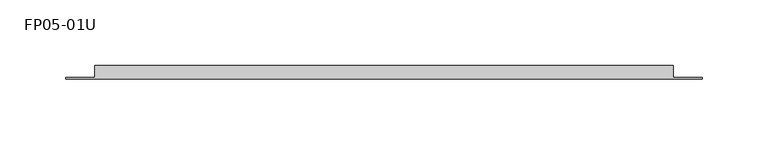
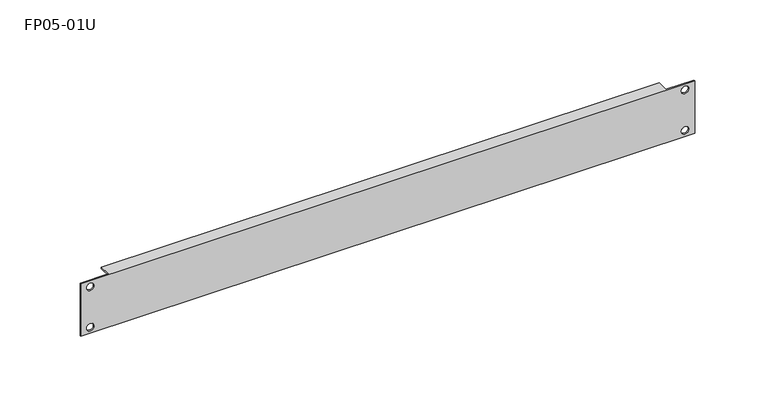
"""IFC4 building model written with IfcOpenShell, lengths in millimetres: proxy geometry, Фальш-панель : FP05-01U."""

from ifc_helpers import new_model, si_unit, frame, origin, place, context, project, spatial, polyline, circle_curve, source, transform, mapped, element, save
from ifc_brep_helpers import plane_surface, revolved_surface, advanced_brep


def fp05_01u_f00bcd1a(model_context):
    return source(origin(), model_context, "Body", "AdvancedBrep", [
        advanced_brep(
        [(-241.25, 0.0, 43.6), (-241.25, -1.0, 43.6), (241.25, -1.0, 43.6), (241.25, 0.0, 43.6), (219.25, 0.0, 43.6), (219.25, 9.0, 43.6), (-219.25, 9.0, 43.6), (-219.25, 0.0, 43.6), (241.25, 0.0, 0.0), (241.25, -1.0, 0.0), (-241.25, -1.0, 0.0), (-241.25, 0.0, 0.0), (-219.25, 0.0, 0.0), (-219.25, 9.0, 0.0), (219.25, 9.0, 0.0), (219.25, 0.0, 0.0), (219.25, 0.0, 1.0), (-219.25, 0.0, 1.0), (-219.25, 0.0, 42.6), (219.25, 0.0, 42.6), (-230.8081342, 0.0, 38.6), (-236.7427021, 0.0, 38.6), (-230.8081342, 0.0, 5.0), (-236.7427021, 0.0, 5.0), (236.7427021, 0.0, 38.6), (230.8081342, 0.0, 38.6), (236.7427021, 0.0, 5.0), (230.8081342, 0.0, 5.0), (-236.7427021, -1.0, 38.6), (-230.8081342, -1.0, 38.6), (-236.7427021, -1.0, 5.0), (-230.8081342, -1.0, 5.0), (230.8081342, -1.0, 38.6), (236.7427021, -1.0, 38.6), (230.8081342, -1.0, 5.0), (236.7427021, -1.0, 5.0), (219.25, 9.0, 42.6), (219.25, 9.0, 1.0), (-219.25, 9.0, 42.6), (-219.25, 9.0, 1.0)],
        [
            (0, 1),
            (1, 2),
            (2, 3),
            (3, 4),
            (4, 5),
            (5, 6),
            (6, 7),
            (7, 0),
            (8, 9),
            (9, 10),
            (10, 11),
            (11, 12),
            (12, 13),
            (13, 14),
            (14, 15),
            (15, 8),
            (3, 8),
            (15, 16),
            (16, 17),
            (17, 12),
            (11, 0),
            (7, 18),
            (18, 19),
            (19, 4),
            (20, 21, circle_curve(frame((-233.7754182, 0.0, 38.6), z_axis=(0.0, -1.0, 0.0), x_axis=(-1.0, 0.0, 0.0)), 2.967284)),
            (21, 20, circle_curve(frame((-233.7754182, 0.0, 38.6), z_axis=(0.0, -1.0, 0.0), x_axis=(-1.0, 0.0, 0.0)), 2.967284)),
            (22, 23, circle_curve(frame((-233.7754182, 0.0, 5.0), z_axis=(0.0, -1.0, 0.0), x_axis=(-1.0, 0.0, 0.0)), 2.967284)),
            (23, 22, circle_curve(frame((-233.7754182, 0.0, 5.0), z_axis=(0.0, -1.0, 0.0), x_axis=(-1.0, 0.0, 0.0)), 2.967284)),
            (24, 25, circle_curve(frame((233.7754182, 0.0, 38.6), z_axis=(0.0, -1.0, 0.0), x_axis=(-1.0, 0.0, 0.0)), 2.967284)),
            (25, 24, circle_curve(frame((233.7754182, 0.0, 38.6), z_axis=(0.0, -1.0, 0.0), x_axis=(-1.0, 0.0, 0.0)), 2.967284)),
            (26, 27, circle_curve(frame((233.7754182, 0.0, 5.0), z_axis=(0.0, -1.0, 0.0), x_axis=(-1.0, 0.0, 0.0)), 2.967284)),
            (27, 26, circle_curve(frame((233.7754182, 0.0, 5.0), z_axis=(0.0, -1.0, 0.0), x_axis=(-1.0, 0.0, 0.0)), 2.967284)),
            (10, 1),
            (9, 2),
            (28, 29, circle_curve(frame((-233.7754182, -1.0, 38.6), z_axis=(0.0, 1.0, 0.0), x_axis=(-1.0, 0.0, 0.0)), 2.967284)),
            (29, 28, circle_curve(frame((-233.7754182, -1.0, 38.6), z_axis=(0.0, 1.0, 0.0), x_axis=(-1.0, 0.0, 0.0)), 2.967284)),
            (30, 31, circle_curve(frame((-233.7754182, -1.0, 5.0), z_axis=(0.0, 1.0, 0.0), x_axis=(-1.0, 0.0, 0.0)), 2.967284)),
            (31, 30, circle_curve(frame((-233.7754182, -1.0, 5.0), z_axis=(0.0, 1.0, 0.0), x_axis=(-1.0, 0.0, 0.0)), 2.967284)),
            (32, 33, circle_curve(frame((233.7754182, -1.0, 38.6), z_axis=(0.0, 1.0, 0.0), x_axis=(-1.0, 0.0, 0.0)), 2.967284)),
            (33, 32, circle_curve(frame((233.7754182, -1.0, 38.6), z_axis=(0.0, 1.0, 0.0), x_axis=(-1.0, 0.0, 0.0)), 2.967284)),
            (34, 35, circle_curve(frame((233.7754182, -1.0, 5.0), z_axis=(0.0, 1.0, 0.0), x_axis=(-1.0, 0.0, 0.0)), 2.967284)),
            (35, 34, circle_curve(frame((233.7754182, -1.0, 5.0), z_axis=(0.0, 1.0, 0.0), x_axis=(-1.0, 0.0, 0.0)), 2.967284)),
            (28, 21),
            (20, 29),
            (30, 23),
            (22, 31),
            (32, 25),
            (24, 33),
            (34, 27),
            (26, 35),
            (19, 36),
            (36, 5),
            (37, 16),
            (14, 37),
            (6, 38),
            (38, 18),
            (39, 13),
            (17, 39),
            (39, 37),
            (38, 36),
        ],
        [
            plane_surface(frame((-241.25, 0.0, 43.6), z_axis=(0.0, 0.0, 1.0), x_axis=(-1.0, 0.0, 0.0))),
            plane_surface(frame((-241.25, 0.0, 0.0), z_axis=(0.0, 0.0, -1.0), x_axis=(1.0, 0.0, 0.0))),
            plane_surface(frame((241.25, 0.0, 43.6), z_axis=(0.0, 1.0, 0.0), x_axis=(0.0, 0.0, -1.0))),
            plane_surface(frame((-241.25, 0.0, 43.6), z_axis=(-1.0, 0.0, 0.0), x_axis=(0.0, 0.0, -1.0))),
            plane_surface(frame((-241.25, -1.0, 43.6), z_axis=(0.0, -1.0, 0.0), x_axis=(0.0, 0.0, -1.0))),
            plane_surface(frame((241.25, -1.0, 43.6), z_axis=(1.0, 0.0, 0.0), x_axis=(0.0, 0.0, -1.0))),
            revolved_surface(polyline([(-236.7427022, -1.0, 38.6), (-236.7427022, 0.0, 38.6)]), (-233.7754182, 0.0, 38.6), (0.0, -1.0, 0.0)),
            revolved_surface(polyline([(-236.7427022, -1.0, 5.0), (-236.7427022, 0.0, 5.0)]), (-233.7754182, -1.0, 5.0), (0.0, -1.0, 0.0)),
            revolved_surface(polyline([(230.80813419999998, -1.0, 38.6), (230.80813419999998, 0.0, 38.6)]), (233.7754182, -1.0, 38.6), (0.0, -1.0, 0.0)),
            revolved_surface(polyline([(230.80813419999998, -1.0, 5.0), (230.80813419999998, 0.0, 5.0)]), (233.7754182, -1.0, 5.0), (0.0, -1.0, 0.0)),
            plane_surface(frame((219.25, 0.0, 43.6), z_axis=(1.0, 0.0, 0.0), x_axis=(0.0, 0.0, -1.0))),
            plane_surface(frame((-219.25, 0.0, 43.6), z_axis=(-1.0, 0.0, 0.0), x_axis=(0.0, 0.0, 1.0))),
            plane_surface(frame((219.25, 9.0, 0.0), z_axis=(0.0, 1.0, 0.0), x_axis=(-1.0, 0.0, 0.0))),
            plane_surface(frame((219.25, 0.0, 42.6), z_axis=(0.0, 0.0, -1.0), x_axis=(-1.0, 0.0, 0.0))),
            plane_surface(frame((219.25, 9.0, 1.0), z_axis=(0.0, 0.0, 1.0), x_axis=(-1.0, 0.0, 0.0))),
            plane_surface(frame((219.25, 9.0, 42.6), z_axis=(0.0, 1.0, 0.0), x_axis=(-1.0, 0.0, 0.0))),
        ],
        [
            (0, [[1, 2, 3, 4, 5, 6, 7, 8]]),
            (1, [[9, 10, 11, 12, 13, 14, 15, 16]]),
            (2, [[17, -16, 18, 19, 20, -12, 21, -8, 22, 23, 24, -4], [25, 26], [27, 28], [29, 30], [31, 32]]),
            (3, [[-1, -21, -11, 33]]),
            (4, [[-2, -33, -10, 34], [35, 36], [37, 38], [39, 40], [41, 42]]),
            (5, [[-3, -34, -9, -17]]),
            (6, [[43, -25, 44, -35]]),
            (6, [[-43, -36, -44, -26]]),
            (7, [[45, -27, 46, -37]]),
            (7, [[-45, -38, -46, -28]]),
            (8, [[47, -29, 48, -39]]),
            (8, [[-47, -40, -48, -30]]),
            (9, [[49, -31, 50, -41]]),
            (9, [[-49, -42, -50, -32]]),
            (10, [[51, 52, -5, -24]]),
            (10, [[53, -18, -15, 54]]),
            (11, [[-7, 55, 56, -22]]),
            (11, [[57, -13, -20, 58]]),
            (12, [[-54, -14, -57, 59]]),
            (13, [[-51, -23, -56, 60]]),
            (14, [[-53, -59, -58, -19]]),
            (15, [[-52, -60, -55, -6]]),
        ],
    ),
    ])


if __name__ == "__main__":
    model = new_model("IFC4")
    model_context = context("Model", 3, world=origin())
    ifc_project = project(units=[si_unit("LENGTHUNIT", "METRE", prefix="MILLI")], contexts=[model_context])
    site = spatial("IfcSite", under=ifc_project)
    building = spatial("IfcBuilding", under=site)
    placement = place(None, origin())
    fp05_01u_shape = fp05_01u_f00bcd1a(model_context)
    element("IfcBuildingElementProxy", 1, Name="Фальш-панель : FP05-01U", ObjectType="Фальш-панель : FP05-01U", at=placement, inside=building, context=model_context, shape_type="MappedRepresentation", body=[
        mapped(fp05_01u_shape, transform((0.0, 0.0, 0.0), x_axis=(1.0, 0.0, 0.0), y_axis=(0.0, 1.0, 0.0), z_axis=(0.0, 0.0, 1.0))),
    ])
    save(model, "model.ifc")
